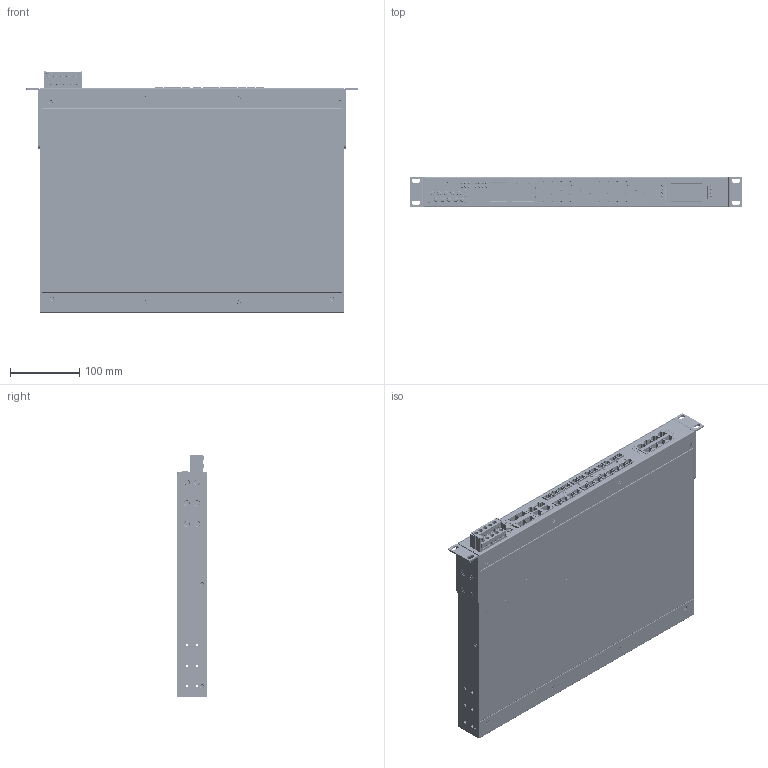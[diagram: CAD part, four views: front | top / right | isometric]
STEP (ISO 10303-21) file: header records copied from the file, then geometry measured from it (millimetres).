
FILE_DESCRIPTION (( 'STEP AP214' ), '1' );
FILE_NAME ('pt-7528_fx 12MSC.STEP', '2013-11-25T06:17:00', ( 'user' ), ( '' ), 'SwSTEP 2.0', 'SolidWorks 2012', '' );
FILE_SCHEMA (( 'AUTOMOTIVE_DESIGN' ));
Length unit declared in the file: millimetre
Products named in the file (54): panel; pt-7528_fx 12MSC; PT 7528 FX 8MSC NSG BKT; pt 7528 FX PIPE; PT 7528 FX 12msc front cover asm; PT 7528 FX 4MSC NSG BKT; M3-SSO-L4_3; M4_NUT; M3-BSO-L3; M3-BSO-L4S; M5_NUT; pt 7528 rear cover; EVA54344(3M)H; M4X8_FMS_90D; PT 7528 FX bot cover; M3-BSO-L17; PT-7528_PROTECT-ASSY_ASM; 4DC-B34W-10; 1490914080019_L-BKT; M3X4_FMS_120D; PT 7528 rear cover asm; PT 7528 Top cover; PT 7528 FX 12msc front cover; M3-BSO-L4_5; M3-BSO-L7_1; PT 7528 FX bot cover asm; SFP2X2; BOX-HEADER_2X7; PT-7528_LED-PCB-1_ASM; LED-SMT; PT-7528-FX_MAIN-BOARD-ASSY_ASM_12 MSC; PT-7528_LED-PCB-1; PT-7528-FX_FIBER-8MSC ASM; 1X8_SIP; PT-7528-FX_2msc DOWN_ASM; 1126005082550_RJ45_2X1_90; TACKSW_DTSA644N; M3_NUT_L4_9; PT-7528-FX_fiber 4msc_ASM; PT-7528-FX_4msc-DOWN_ASM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
Assembly tree (228 placements, depth 5):
  pt-7528_fx 12MSC
    PT-7528-FX_MAIN-BOARD-ASSY_ASM_12 MSC
      1126010004000
      SFP2X2
      1126010000000_USB_B-TYPE_90DIP
      1126005082550_RJ45_2X1_90  x2
      PT-7528-FX_LED_ASM
        LED_HDR_2X1  x7
        TACKSW_DTSA644N
        M3_NUT_L4_9  x2
      PT-7528-FX_8TX_ASM
        RJ45-2X4-E5908-57C122-L
        110699999A700_LED_1X4  x2
      PT-7528-FX_fiber 4msc_ASM
        PT-7528-FX_2msc UP_ASM
          FIBER_SC  x2
          1106999994000_LED GREEN_SMD  x2
        PT-7528-FX_2msc DOWN_ASM
          FIBER_SC  x2
          1106999994000_LED GREEN_SMD  x2
      PT-7528-FX_FIBER-8MSC ASM
        PM-7200-4MSC-MODULE_PCB-UP_ASM
          FIBER_SC  x4
          1106999994000_LED GREEN_SMD  x4
        PT-7528-FX_4msc-DOWN_ASM
          FIBER_SC  x4
          1106999994000_LED_GREEN_SMD  x4
    PT-7528_LED-PCB-1_ASM
      PT-7528_LED-PCB-1
      LED-SMT  x34
      1X8_SIP
    PT-7528_PROTECT-ASSY_ASM
      4DC-B34W-10
      panel
    1490914080019_L-BKT  x2
    M3X4_FMS_120D  x26
    M4X8_FMS_90D  x12
    PT 7528 FX bot cover asm
      PT 7528 FX bot cover
      M3-BSO-L3  x2
      M3-BSO-L4S  x2
      M3-BSO-L17  x12
      M4_NUT  x24
      M3-BSO-L7_1  x32
    PT 7528 rear cover asm
      pt 7528 rear cover
      M3-BSO-L4S  x2
      EVA54344(3M)H
    PT 7528 Top cover
    PT 7528 FX 12msc front cover asm
      PT 7528 FX 12msc front cover
      M5_NUT
      M3-BSO-L4_5  x6
      PT 7528 FX 4MSC NSG BKT
        PT 7528 FX 4MSC NSG BKT
        M3-SSO-L4_3
        pt 7528 FX PIPE
      PT 7528 FX 8MSC NSG BKT
        PT 7528 FX 8MSC NSG BKT
        M3-SSO-L4_3  x2
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Bounding box: 480.2 x 44 x 349.3 mm (x, y, z)
Volume: 612657.8 mm3; surface area: 996947.8 mm2
Topology: 126 solids, 310 shells, 7713 faces, 18930 edges, 12198 vertices
Faces by surface type: plane 3765, cylinder 2790, cone 840, bspline 166, torus 144, sphere 8
Entity records: 100597 total; most frequent: CARTESIAN_POINT 18465, DIRECTION 17448, ORIENTED_EDGE 15844, EDGE_CURVE 7940, AXIS2_PLACEMENT_3D 6361, VERTEX_POINT 5129, LINE 4726, VECTOR 4726
